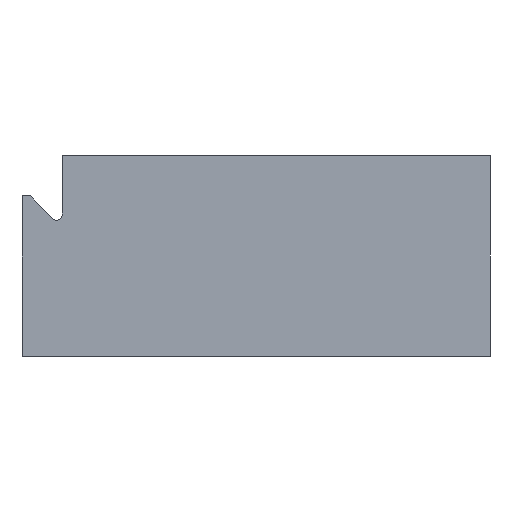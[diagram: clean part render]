
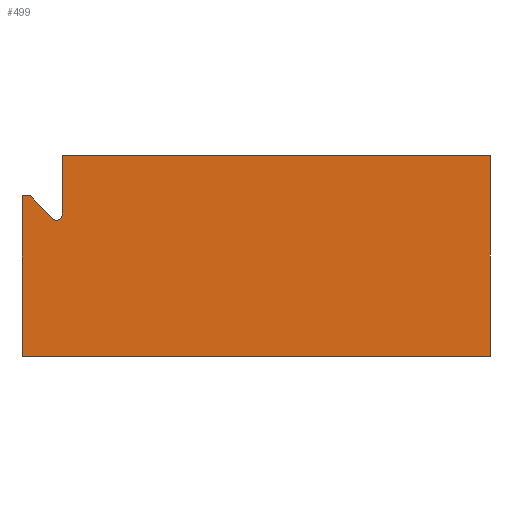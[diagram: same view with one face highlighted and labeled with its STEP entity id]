
A CAD part, left-side view. The second image highlights one B-rep face of the part: STEP entity #499.
In plain terms, the highlighted planar face has unit normal (-1, 0, 0).
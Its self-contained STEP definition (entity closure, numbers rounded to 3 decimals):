
#1 = LINE ( 'NONE', #330, #113 ) ;
#13 = DIRECTION ( 'NONE',  ( 0., 1., 0. ) ) ;
#43 = ORIENTED_EDGE ( 'NONE', *, *, #610, .T. ) ;
#54 = AXIS2_PLACEMENT_3D ( 'NONE', #247, #107, #792 ) ;
#68 = CARTESIAN_POINT ( 'NONE',  ( -51., 16.9, 12. ) ) ;
#69 = ORIENTED_EDGE ( 'NONE', *, *, #540, .F. ) ;
#88 = CARTESIAN_POINT ( 'NONE',  ( -51., 15.183, 10.283 ) ) ;
#89 = LINE ( 'NONE', #363, #588 ) ;
#107 = DIRECTION ( 'NONE',  ( 1., 0., 0. ) ) ;
#113 = VECTOR ( 'NONE', #663, 1000. ) ;
#119 = EDGE_CURVE ( 'NONE', #513, #526, #89, .T. ) ;
#166 = VECTOR ( 'NONE', #13, 1000. ) ;
#182 = VECTOR ( 'NONE', #574, 1000. ) ;
#204 = FACE_OUTER_BOUND ( 'NONE', #623, .T. ) ;
#205 = ORIENTED_EDGE ( 'NONE', *, *, #446, .F. ) ;
#212 = DIRECTION ( 'NONE',  ( 0., -1., 0. ) ) ;
#237 = DIRECTION ( 'NONE',  ( 0., 0., -1. ) ) ;
#238 = ORIENTED_EDGE ( 'NONE', *, *, #636, .T. ) ;
#247 = CARTESIAN_POINT ( 'NONE',  ( -51., 14.9, 10.566 ) ) ;
#264 = EDGE_CURVE ( 'NONE', #350, #286, #489, .T. ) ;
#271 = CARTESIAN_POINT ( 'NONE',  ( -51., -120.597, 0. ) ) ;
#286 = VERTEX_POINT ( 'NONE', #309 ) ;
#297 = ORIENTED_EDGE ( 'NONE', *, *, #472, .T. ) ;
#300 = DIRECTION ( 'NONE',  ( 0., 1., 0. ) ) ;
#309 = CARTESIAN_POINT ( 'NONE',  ( -51., -17.5, 15. ) ) ;
#330 = CARTESIAN_POINT ( 'NONE',  ( -51., 17.5, 0. ) ) ;
#335 = LINE ( 'NONE', #271, #657 ) ;
#350 = VERTEX_POINT ( 'NONE', #517 ) ;
#363 = CARTESIAN_POINT ( 'NONE',  ( -51., 14.5, 10.566 ) ) ;
#370 = ORIENTED_EDGE ( 'NONE', *, *, #119, .T. ) ;
#373 = CARTESIAN_POINT ( 'NONE',  ( -51., 16.9, 12. ) ) ;
#375 = VECTOR ( 'NONE', #300, 1000. ) ;
#406 = CARTESIAN_POINT ( 'NONE',  ( -51., 14.5, 10.566 ) ) ;
#419 = VECTOR ( 'NONE', #445, 1000. ) ;
#427 = CARTESIAN_POINT ( 'NONE',  ( -51., -17.5, 0. ) ) ;
#434 = CIRCLE ( 'NONE', #54, 0.4 ) ;
#445 = DIRECTION ( 'NONE',  ( 0., 0.707, 0.707 ) ) ;
#446 = EDGE_CURVE ( 'NONE', #491, #836, #1, .T. ) ;
#453 = ORIENTED_EDGE ( 'NONE', *, *, #740, .T. ) ;
#472 = EDGE_CURVE ( 'NONE', #784, #836, #820, .T. ) ;
#487 = PLANE ( 'NONE',  #547 ) ;
#489 = LINE ( 'NONE', #819, #182 ) ;
#491 = VERTEX_POINT ( 'NONE', #562 ) ;
#499 = ADVANCED_FACE ( 'NONE', ( #204 ), #487, .T. ) ;
#501 = LINE ( 'NONE', #582, #375 ) ;
#513 = VERTEX_POINT ( 'NONE', #548 ) ;
#517 = CARTESIAN_POINT ( 'NONE',  ( -51., -17.5, 0. ) ) ;
#526 = VERTEX_POINT ( 'NONE', #406 ) ;
#540 = EDGE_CURVE ( 'NONE', #350, #491, #335, .T. ) ;
#543 = CARTESIAN_POINT ( 'NONE',  ( -51., 17.5, 12. ) ) ;
#547 = AXIS2_PLACEMENT_3D ( 'NONE', #427, #697, #212 ) ;
#548 = CARTESIAN_POINT ( 'NONE',  ( -51., 14.5, 15. ) ) ;
#562 = CARTESIAN_POINT ( 'NONE',  ( -51., 17.5, 0. ) ) ;
#574 = DIRECTION ( 'NONE',  ( 0., 0., 1. ) ) ;
#582 = CARTESIAN_POINT ( 'NONE',  ( -51., -120.597, 15. ) ) ;
#586 = LINE ( 'NONE', #373, #419 ) ;
#588 = VECTOR ( 'NONE', #237, 1000. ) ;
#610 = EDGE_CURVE ( 'NONE', #650, #784, #586, .T. ) ;
#623 = EDGE_LOOP ( 'NONE', ( #297, #205, #69, #847, #238, #370, #453, #43 ) ) ;
#636 = EDGE_CURVE ( 'NONE', #286, #513, #501, .T. ) ;
#650 = VERTEX_POINT ( 'NONE', #88 ) ;
#657 = VECTOR ( 'NONE', #849, 1000. ) ;
#663 = DIRECTION ( 'NONE',  ( 0., 0., 1. ) ) ;
#697 = DIRECTION ( 'NONE',  ( -1., 0., 0. ) ) ;
#740 = EDGE_CURVE ( 'NONE', #526, #650, #434, .T. ) ;
#747 = CARTESIAN_POINT ( 'NONE',  ( -51., 17.5, 12. ) ) ;
#784 = VERTEX_POINT ( 'NONE', #68 ) ;
#792 = DIRECTION ( 'NONE',  ( 0., -1., 0. ) ) ;
#819 = CARTESIAN_POINT ( 'NONE',  ( -51., -17.5, 0. ) ) ;
#820 = LINE ( 'NONE', #747, #166 ) ;
#836 = VERTEX_POINT ( 'NONE', #543 ) ;
#847 = ORIENTED_EDGE ( 'NONE', *, *, #264, .T. ) ;
#849 = DIRECTION ( 'NONE',  ( 0., 1., 0. ) ) ;
